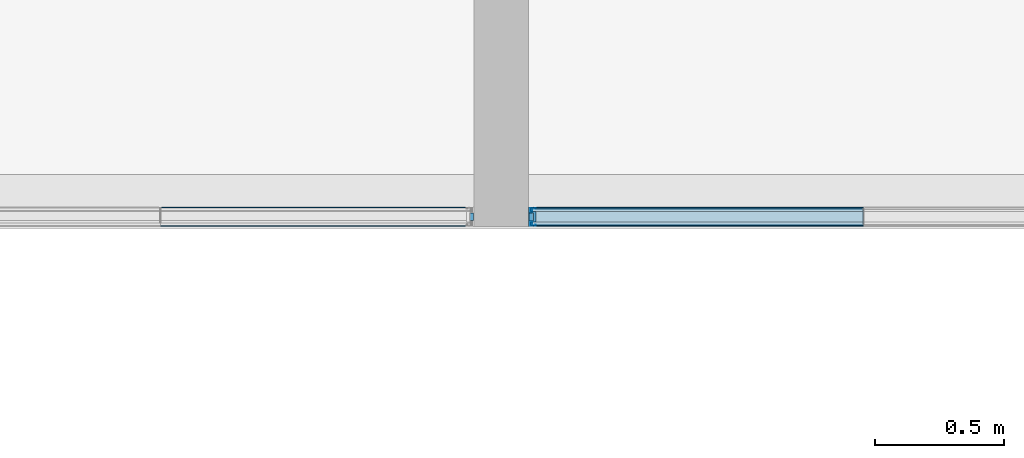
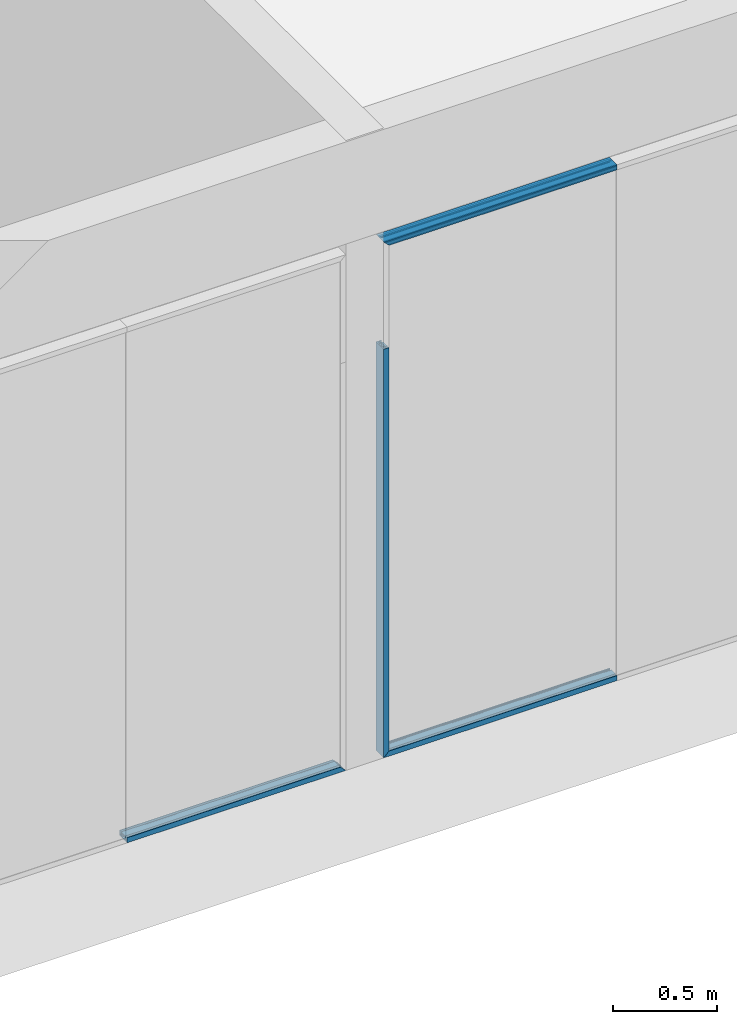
# One storey, part 44 of 387: 7 building element parts, 6 elements without a shape of their own.
"""IFC2X3 building model written with IfcOpenShell, lengths in millimetres."""

from ifc_helpers import new_model, entity, si_unit, converted_unit, derived_unit, money_unit, direction, frame, origin_with_axes, place, context, subcontext, project, spatial, faceted_brep, source, transform, mapped, material, type_object, element, aggregate, save


model = new_model("IFC2X3")

# Units and contexts
model_context = context("Model", 3, precision=0.01, world=origin_with_axes(), true_north=direction((0.0, 1.0)))
body_context = subcontext(model_context, "Body", "Model", "MODEL_VIEW")
ifc_project = project(units=[si_unit("LENGTHUNIT", "METRE", prefix="MILLI"), si_unit("AREAUNIT", "SQUARE_METRE"), si_unit("VOLUMEUNIT", "CUBIC_METRE"), converted_unit("PLANEANGLEUNIT", "DEGREE", entity("IfcPlaneAngleMeasure", 0.0174532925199), si_unit("PLANEANGLEUNIT", "RADIAN"), dimensions=[0, 0, 0, 0, 0, 0, 0]), si_unit("SOLIDANGLEUNIT", "STERADIAN"), money_unit("EUR"), converted_unit("TIMEUNIT", "Year", entity("IfcTimeMeasure", 31556926.0), si_unit("TIMEUNIT", "SECOND"), dimensions=[0, 0, 1, 0, 0, 0, 0]), si_unit("MASSUNIT", "GRAM", prefix="KILO"), si_unit("THERMODYNAMICTEMPERATUREUNIT", "DEGREE_CELSIUS"), si_unit("LUMINOUSINTENSITYUNIT", "LUMEN"), si_unit("ENERGYUNIT", "JOULE", prefix="MEGA"), derived_unit("THERMALCONDUCTANCEUNIT", [(si_unit("POWERUNIT", "WATT"), 1), (si_unit("LENGTHUNIT", "METRE"), -1), (si_unit("THERMODYNAMICTEMPERATUREUNIT", "KELVIN"), -1)]), derived_unit("SPECIFICHEATCAPACITYUNIT", [(si_unit("ENERGYUNIT", "JOULE"), 1), (si_unit("MASSUNIT", "GRAM", prefix="KILO"), -1), (si_unit("THERMODYNAMICTEMPERATUREUNIT", "KELVIN"), -1)]), derived_unit("MASSDENSITYUNIT", [(si_unit("MASSUNIT", "GRAM", prefix="KILO"), 1), (si_unit("VOLUMEUNIT", "CUBIC_METRE"), -1)])], contexts=[model_context])

# Site, building, storey
site_placement = place(None, origin_with_axes())
site = spatial("IfcSite", under=ifc_project, at=site_placement, Name="Puškini 31, Narva", CompositionType="ELEMENT")
building_placement = place(site_placement, origin_with_axes())
building = spatial("IfcBuilding", under=site, at=building_placement, Name="Narva Riigigümnaasium", CompositionType="ELEMENT")
storey_placement = place(building_placement, frame((0.0, 0.0, 2640.0), z_axis=(0.0, 0.0, 1.0), x_axis=(1.0, 0.0, 0.0)))
storey = spatial("IfcBuildingStorey", under=building, at=storey_placement, Name="2.korrus +2.64", CompositionType="ELEMENT", Elevation=2640.0)

# Curtain wall, member, building element parts
curtain_wall_type = type_object("IfcCurtainWallType", Name="Curtain Wall Type", PredefinedType="NOTDEFINED")
curtain_wall_1_placement = place(storey_placement, frame((44841.2500007, 163537.000002, -0.000124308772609), z_axis=(0.0, 0.0, 1.0), x_axis=(1.0, 0.0, 0.0)))
curtain_wall_1 = element("IfcCurtainWall", 1, at=curtain_wall_1_placement, inside=storey, type_object=curtain_wall_type, Name="G-SKLF-49")
member_type_1 = type_object("IfcMemberType", Name="Boundary Frame 30 x 37", PredefinedType="MULLION")
member_1_placement = place(curtain_wall_1_placement, frame((-4541.25000268, 0.0, 0.0), z_axis=(0.0, 0.0, 1.0), x_axis=(-1.0, 0.0, 0.0)))
member_1 = element("IfcMember", 2, at=member_1_placement, type_object=member_type_1, Name="G-SKLF-72-raam", ObjectType="MULLION")
ifc_material_1 = material(Name="Klaasvill")
shared_shape_1 = source(origin_with_axes(), body_context, "Body", "Brep", [
    faceted_brep([(13.8499999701, 20.000000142, 13.8500005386), (13.8499999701, 20.000000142, 2400.00003102), (7.49999990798, 20.000000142, 2400.00003102), (7.49999990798, 20.000000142, 7.5000002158), (13.8499999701, 34.0161444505, 13.8500005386), (13.8499999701, 34.0161444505, 2400.00003102), (7.49999990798, 34.0161444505, 2400.00003102), (7.49999990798, 34.0161444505, 7.5000002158)], [[[0, 1, 2, 3]], [[4, 5, 1, 0]], [[2, 1, 5, 6]], [[3, 2, 6, 7]], [[3, 7, 4, 0]], [[7, 6, 5, 4]]]),
    faceted_brep([(25.004489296, 32.0307503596, 25.0044903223), (25.004489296, 32.0307503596, 2400.00003102), (24.987414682, 34.0161444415, 2400.00003102), (24.987414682, 34.0161444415, 24.9874157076), (25.742237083, 31.2930025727, 25.7422381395), (25.742237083, 31.2930025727, 2400.00003102), (26.7500193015, 31.0229681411, 2400.00003102), (27.75780152, 31.2930025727, 2400.00003102), (28.4955493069, 32.0307503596, 2400.00003102), (28.7655837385, 33.0385325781, 2400.00003102), (28.5126239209, 34.0161444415, 2400.00003102), (28.5126239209, 34.0161444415, 28.5126250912), (28.7655837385, 33.0385325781, 28.7655849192), (28.4955493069, 32.0307503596, 28.4955504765), (27.75780152, 31.2930025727, 27.7578026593), (26.7500193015, 31.0229681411, 26.7500203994)], [[[0, 1, 2, 3]], [[4, 5, 1, 0]], [[2, 1, 5, 6, 7, 8, 9, 10]], [[3, 2, 10, 11]], [[3, 11, 12, 13, 14, 15, 4, 0]], [[15, 6, 5, 4]], [[14, 7, 6, 15]], [[13, 8, 7, 14]], [[12, 9, 8, 13]], [[11, 10, 9, 12]]]),
    faceted_brep([(7.49999990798, -34.0161445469, 7.5000002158), (7.49999990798, -34.0161445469, 2400.00003102), (7.49999990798, -19.9999997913, 2400.00003102), (7.49999990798, -19.9999997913, 7.5000002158), (13.8499999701, -34.0161445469, 13.8500005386), (13.8499999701, -34.0161445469, 2400.00003102), (13.8499999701, -19.9999997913, 2400.00003102), (13.8499999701, -19.9999997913, 13.8500005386)], [[[0, 1, 2, 3]], [[4, 5, 1, 0]], [[2, 1, 5, 6]], [[3, 2, 6, 7]], [[3, 7, 4, 0]], [[7, 6, 5, 4]]]),
    faceted_brep([(24.987414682, -34.0161444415, 24.9874157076), (24.987414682, -34.0161444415, 2400.00003102), (25.004489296, -32.0307503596, 2400.00003102), (25.004489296, -32.0307503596, 25.0044903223), (28.5126239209, -34.0161444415, 28.5126250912), (28.5126239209, -34.0161444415, 2400.00003102), (28.7655837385, -33.0385325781, 2400.00003102), (28.4955493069, -32.0307503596, 2400.00003102), (27.75780152, -31.2930025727, 2400.00003102), (26.7500193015, -31.0229681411, 2400.00003102), (25.742237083, -31.2930025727, 2400.00003102), (25.742237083, -31.2930025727, 25.7422381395), (26.7500193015, -31.0229681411, 26.7500203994), (27.75780152, -31.2930025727, 27.7578026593), (28.4955493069, -32.0307503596, 28.4955504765), (28.7655837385, -33.0385325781, 28.7655849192)], [[[0, 1, 2, 3]], [[4, 5, 1, 0]], [[2, 1, 5, 6, 7, 8, 9, 10]], [[3, 2, 10, 11]], [[3, 11, 12, 13, 14, 15, 4, 0]], [[15, 6, 5, 4]], [[14, 7, 6, 15]], [[13, 8, 7, 14]], [[12, 9, 8, 13]], [[11, 10, 9, 12]]]),
])
building_element_part_1_placement = place(member_1_placement, origin_with_axes())
building_element_part_1 = element("IfcBuildingElementPart", 3, at=building_element_part_1_placement, material=ifc_material_1, Name="Klaasvill", context=body_context, shape_type="MappedRepresentation", body=[
    mapped(shared_shape_1, transform((0.0, 0.0, 0.0), x_axis=(-1.0, 0.0, 0.0), y_axis=(0.0, -1.0, 0.0), z_axis=(0.0, 0.0, 1.0))),
])
ifc_material_2 = material(Name="Teras RAL7012")
shared_shape_2 = source(origin_with_axes(), body_context, "Body", "Brep", [
    faceted_brep([(29.5999996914, -17.0000000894, 29.6000009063), (29.5999996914, -17.0000000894, 2400.00003102), (0.0, -17.0000000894, 2400.00003102), (0.0, -17.0000000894, 0.0), (29.5999996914, 17.0000000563, 29.6000009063), (29.5999996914, 17.0000000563, 2400.00003102), (0.0, 17.0000000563, 2400.00003102), (1.9999999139, 15.0000001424, 2400.00003102), (18.7999996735, 15.0000001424, 2400.00003102), (18.7999996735, -15.0000001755, 2400.00003102), (1.9999999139, -15.0000001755, 2400.00003102), (0.0, 17.0000000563, 0.0), (1.9999999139, 15.0000001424, 1.99999999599), (1.9999999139, -15.0000001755, 1.99999999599), (18.7999996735, -15.0000001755, 18.8000004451), (18.7999996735, 15.0000001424, 18.8000004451)], [[[0, 1, 2, 3]], [[4, 5, 1, 0]], [[2, 1, 5, 6], [7, 8, 9, 10]], [[3, 2, 6, 11]], [[3, 11, 4, 0], [12, 13, 14, 15]], [[11, 6, 5, 4]], [[15, 8, 7, 12]], [[14, 9, 8, 15]], [[13, 10, 9, 14]], [[12, 7, 10, 13]]]),
    faceted_brep([(29.5999996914, 17.0000000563, 29.6000009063), (29.5999996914, 17.0000000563, 2400.00003102), (0.0, 17.0, 2400.00003102), (0.0, 17.0, 0.0), (30.0000193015, 17.0, 30.0000205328), (30.0000193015, 17.0, 2400.00003102), (30.0000193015, 20.0, 2400.00003102), (13.8499999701, 20.000000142, 2400.00003102), (7.49999999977, 20.0, 2400.00003102), (7.49999999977, 34.0161444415, 2400.00003102), (13.8499999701, 34.0161444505, 2400.00003102), (24.987414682, 34.0161444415, 2400.00003102), (28.5126239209, 34.0161444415, 2400.00003102), (30.0000193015, 34.0161444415, 2400.00003102), (30.0000193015, 37.0, 2400.00003102), (0.0, 37.0, 2400.00003102), (0.0, 37.0, 0.0), (30.0000193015, 37.0, 30.0000205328), (30.0000193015, 34.0161444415, 30.0000205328), (28.5126239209, 34.0161444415, 28.5126250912), (24.987414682, 34.0161444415, 24.9874157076), (13.8499999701, 34.0161444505, 13.8500005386), (7.49999999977, 34.0161444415, 7.50000030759), (7.49999999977, 20.0, 7.50000030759), (13.8499999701, 20.000000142, 13.8500005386), (30.0000193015, 20.0, 30.0000205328)], [[[0, 1, 2, 3]], [[4, 5, 1, 0]], [[2, 1, 5, 6, 7, 8, 9, 10, 11, 12, 13, 14, 15]], [[3, 2, 15, 16]], [[3, 16, 17, 18, 19, 20, 21, 22, 23, 24, 25, 4, 0]], [[25, 6, 5, 4]], [[24, 7, 6, 25]], [[23, 8, 7, 24]], [[22, 9, 8, 23]], [[21, 10, 9, 22]], [[20, 11, 10, 21]], [[19, 12, 11, 20]], [[18, 13, 12, 19]], [[17, 14, 13, 18]], [[16, 15, 14, 17]]]),
    faceted_brep([(0.0, -37.0, 0.0), (0.0, -37.0, 2400.00003102), (0.0, -17.0, 2400.00003102), (0.0, -17.0, 0.0), (30.0000193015, -37.0, 30.0000205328), (30.0000193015, -37.0, 2400.00003102), (30.0000193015, -34.0161444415, 2400.00003102), (28.5126239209, -34.0161444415, 2400.00003102), (24.987414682, -34.0161444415, 2400.00003102), (13.8499999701, -34.0161445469, 2400.00003102), (7.49999999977, -34.0161444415, 2400.00003102), (7.49999999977, -20.0, 2400.00003102), (13.8499999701, -19.9999997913, 2400.00003102), (30.0000193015, -20.0, 2400.00003102), (30.0000193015, -17.0, 2400.00003102), (29.5999996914, -17.0000000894, 2400.00003102), (29.5999996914, -17.0000000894, 29.6000009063), (30.0000193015, -17.0, 30.0000205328), (30.0000193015, -20.0, 30.0000205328), (13.8499999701, -19.9999997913, 13.8500005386), (7.49999999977, -20.0, 7.50000030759), (7.49999999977, -34.0161444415, 7.50000030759), (13.8499999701, -34.0161445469, 13.8500005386), (24.987414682, -34.0161444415, 24.9874157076), (28.5126239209, -34.0161444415, 28.5126250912), (30.0000193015, -34.0161444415, 30.0000205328)], [[[0, 1, 2, 3]], [[4, 5, 1, 0]], [[2, 1, 5, 6, 7, 8, 9, 10, 11, 12, 13, 14, 15]], [[3, 2, 15, 16]], [[3, 16, 17, 18, 19, 20, 21, 22, 23, 24, 25, 4, 0]], [[25, 6, 5, 4]], [[24, 7, 6, 25]], [[23, 8, 7, 24]], [[22, 9, 8, 23]], [[21, 10, 9, 22]], [[20, 11, 10, 21]], [[19, 12, 11, 20]], [[18, 13, 12, 19]], [[17, 14, 13, 18]], [[16, 15, 14, 17]]]),
])
building_element_part_2_placement = place(member_1_placement, origin_with_axes())
building_element_part_2 = element("IfcBuildingElementPart", 4, at=building_element_part_2_placement, material=ifc_material_2, Name="Teras RAL7012", context=body_context, shape_type="MappedRepresentation", body=[
    mapped(shared_shape_2, transform((0.0, 0.0, 0.0), x_axis=(-1.0, 0.0, 0.0), y_axis=(0.0, -1.0, 0.0), z_axis=(0.0, 0.0, 1.0))),
])
aggregate(member_1, [building_element_part_1, building_element_part_2])

# Curtain wall, member, building element part
curtain_wall_2_placement = place(storey_placement, frame((37052.5000014, 163542.000002, -0.000124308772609), z_axis=(0.0, 0.0, 1.0), x_axis=(1.0, 0.0, 0.0)))
curtain_wall_2 = element("IfcCurtainWall", 5, at=curtain_wall_2_placement, inside=storey, type_object=curtain_wall_type, Name="G-SKLF-48")
member_type_2 = type_object("IfcMemberType", Name="Boundary Frame 30 x 42", PredefinedType="MULLION")
member_2_placement = place(curtain_wall_2_placement, frame((1822.5, 0.0, 0.0), z_axis=(1.0, 0.0, 0.0), x_axis=(0.0, 0.0, 1.0)))
member_2 = element("IfcMember", 6, at=member_2_placement, type_object=member_type_2, Name="G-SKLF-69-raam", ObjectType="MULLION")
aggregate(curtain_wall_2, [member_2])
shared_shape_3 = source(origin_with_axes(), body_context, "Body", "Brep", [
    faceted_brep([(0.0, -22.0000000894, -2.079791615e-07), (0.0, -22.0000000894, 1215.0), (-29.5999996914, -22.0000000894, 1185.40000031), (-29.5999996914, -22.0000000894, -2.079791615e-07), (0.0, 12.0000000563, -2.079791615e-07), (0.0, 12.0000000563, 1215.0), (-29.5999996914, 12.0000000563, 1185.40000031), (-1.9999999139, 10.0000001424, 1213.00000009), (-1.9999999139, -20.0000001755, 1213.00000009), (-18.7999996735, -20.0000001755, 1196.20000033), (-18.7999996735, 10.0000001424, 1196.20000033), (-29.5999996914, 12.0000000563, -2.079791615e-07), (-1.9999999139, 10.0000001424, -2.079791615e-07), (-18.7999996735, 10.0000001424, -2.079791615e-07), (-18.7999996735, -20.0000001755, -2.079791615e-07), (-1.9999999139, -20.0000001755, -2.079791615e-07)], [[[0, 1, 2, 3]], [[4, 5, 1, 0]], [[1, 5, 6, 2], [7, 8, 9, 10]], [[3, 2, 6, 11]], [[0, 3, 11, 4], [12, 13, 14, 15]], [[11, 6, 5, 4]], [[15, 8, 7, 12]], [[14, 9, 8, 15]], [[13, 10, 9, 14]], [[12, 7, 10, 13]]]),
    faceted_brep([(0.0, 12.0, -2.079791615e-07), (0.0, 12.0, 1215.0), (-29.5999996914, 12.0000000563, 1185.40000031), (-29.5999996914, 12.0000000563, -2.079791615e-07), (0.0, 32.0, -2.079791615e-07), (0.0, 32.0, 1215.0), (-30.0000193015, 32.0, 1184.9999807), (-30.0000193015, 29.0161444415, 1184.9999807), (-28.5126239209, 29.0161444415, 1186.48737608), (-24.987414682, 29.0161444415, 1190.01258532), (-13.8499999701, 29.0161444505, 1201.15000003), (-7.49999999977, 29.0161444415, 1207.5), (-7.49999999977, 15.0, 1207.5), (-13.8499999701, 15.000000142, 1201.15000003), (-30.0000193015, 15.0, 1184.9999807), (-30.0000193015, 12.0, 1184.9999807), (-30.0000193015, 12.0, -2.079791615e-07), (-30.0000193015, 15.0, -2.079791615e-07), (-13.8499999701, 15.000000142, -2.079791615e-07), (-7.49999999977, 15.0, -2.079791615e-07), (-7.49999999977, 29.0161444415, -2.079791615e-07), (-13.8499999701, 29.0161444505, -2.079791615e-07), (-24.987414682, 29.0161444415, -2.079791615e-07), (-28.5126239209, 29.0161444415, -2.079791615e-07), (-30.0000193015, 29.0161444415, -2.079791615e-07), (-30.0000193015, 32.0, -2.079791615e-07)], [[[0, 1, 2, 3]], [[4, 5, 1, 0]], [[1, 5, 6, 7, 8, 9, 10, 11, 12, 13, 14, 15, 2]], [[3, 2, 15, 16]], [[0, 3, 16, 17, 18, 19, 20, 21, 22, 23, 24, 25, 4]], [[25, 6, 5, 4]], [[24, 7, 6, 25]], [[23, 8, 7, 24]], [[22, 9, 8, 23]], [[21, 10, 9, 22]], [[20, 11, 10, 21]], [[19, 12, 11, 20]], [[18, 13, 12, 19]], [[17, 14, 13, 18]], [[16, 15, 14, 17]]]),
    faceted_brep([(0.0, -22.0, -2.079791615e-07), (0.0, -22.0, 1215.0), (0.0, -42.0, 1215.0), (0.0, -42.0, -2.079791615e-07), (-29.5999996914, -22.0000000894, -2.079791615e-07), (-29.5999996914, -22.0000000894, 1185.40000031), (-30.0000193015, -22.0, 1184.9999807), (-30.0000193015, -25.0, 1184.9999807), (-13.8499999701, -24.9999997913, 1201.15000003), (-7.49999999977, -25.0, 1207.5), (-7.49999999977, -39.0161444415, 1207.5), (-13.8499999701, -39.0161445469, 1201.15000003), (-24.987414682, -39.0161444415, 1190.01258532), (-28.5126239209, -39.0161444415, 1186.48737608), (-30.0000193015, -39.0161444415, 1184.9999807), (-30.0000193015, -42.0, 1184.9999807), (-30.0000193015, -42.0, -2.079791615e-07), (-30.0000193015, -39.0161444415, -2.079791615e-07), (-28.5126239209, -39.0161444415, -2.079791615e-07), (-24.987414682, -39.0161444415, -2.079791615e-07), (-13.8499999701, -39.0161445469, -2.079791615e-07), (-7.49999999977, -39.0161444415, -2.079791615e-07), (-7.49999999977, -25.0, -2.079791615e-07), (-13.8499999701, -24.9999997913, -2.079791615e-07), (-30.0000193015, -25.0, -2.079791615e-07), (-30.0000193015, -22.0, -2.079791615e-07)], [[[0, 1, 2, 3]], [[4, 5, 1, 0]], [[1, 5, 6, 7, 8, 9, 10, 11, 12, 13, 14, 15, 2]], [[3, 2, 15, 16]], [[0, 3, 16, 17, 18, 19, 20, 21, 22, 23, 24, 25, 4]], [[25, 6, 5, 4]], [[24, 7, 6, 25]], [[23, 8, 7, 24]], [[22, 9, 8, 23]], [[21, 10, 9, 22]], [[20, 11, 10, 21]], [[19, 12, 11, 20]], [[18, 13, 12, 19]], [[17, 14, 13, 18]], [[16, 15, 14, 17]]]),
])
building_element_part_3_placement = place(member_2_placement, origin_with_axes())
building_element_part_3 = element("IfcBuildingElementPart", 7, at=building_element_part_3_placement, material=ifc_material_2, Name="Teras RAL7012", context=body_context, shape_type="MappedRepresentation", body=[
    mapped(shared_shape_3, transform((0.0, 0.0, 0.0), x_axis=(-1.0, 0.0, 0.0), y_axis=(0.0, -1.0, 0.0), z_axis=(0.0, 0.0, 1.0))),
])
aggregate(member_2, [building_element_part_3])

# Member, building element parts
member_3_placement = place(curtain_wall_1_placement, frame((-3243.75000268, 0.0, 3030.00000658), z_axis=(-1.0, 0.0, 0.0), x_axis=(0.0, 0.0, -1.0)))
member_3 = element("IfcMember", 8, at=member_3_placement, type_object=member_type_1, Name="G-SKLF-70-raam", ObjectType="MULLION")
shared_shape_4 = source(origin_with_axes(), body_context, "Body", "Brep", [
    faceted_brep([(-7.49999990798, 20.000000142, 0.0), (-7.49999990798, 20.000000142, 1290.00000009), (-13.8499999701, 20.000000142, 1283.65000003), (-13.8499999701, 20.000000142, 0.0), (-7.49999990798, 34.0161444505, 0.0), (-7.49999990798, 34.0161444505, 1290.00000009), (-13.8499999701, 34.0161444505, 1283.65000003), (-13.8499999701, 34.0161444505, 0.0)], [[[0, 1, 2, 3]], [[4, 5, 1, 0]], [[1, 5, 6, 2]], [[3, 2, 6, 7]], [[0, 3, 7, 4]], [[7, 6, 5, 4]]]),
    faceted_brep([(-24.987414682, 34.0161444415, 0.0), (-24.987414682, 34.0161444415, 1272.51258532), (-25.004489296, 32.0307503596, 1272.4955107), (-25.004489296, 32.0307503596, 0.0), (-28.5126239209, 34.0161444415, 0.0), (-28.5126239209, 34.0161444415, 1268.98737608), (-28.7655837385, 33.0385325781, 1268.73441626), (-28.4955493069, 32.0307503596, 1269.00445069), (-27.75780152, 31.2930025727, 1269.74219848), (-26.7500193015, 31.0229681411, 1270.7499807), (-25.742237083, 31.2930025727, 1271.75776292), (-25.742237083, 31.2930025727, 0.0), (-26.7500193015, 31.0229681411, 0.0), (-27.75780152, 31.2930025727, 0.0), (-28.4955493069, 32.0307503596, 0.0), (-28.7655837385, 33.0385325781, 0.0)], [[[0, 1, 2, 3]], [[4, 5, 1, 0]], [[1, 5, 6, 7, 8, 9, 10, 2]], [[3, 2, 10, 11]], [[0, 3, 11, 12, 13, 14, 15, 4]], [[15, 6, 5, 4]], [[14, 7, 6, 15]], [[13, 8, 7, 14]], [[12, 9, 8, 13]], [[11, 10, 9, 12]]]),
    faceted_brep([(-7.49999990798, -19.9999997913, 0.0), (-7.49999990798, -19.9999997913, 1290.00000009), (-7.49999990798, -34.0161445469, 1290.00000009), (-7.49999990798, -34.0161445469, 0.0), (-13.8499999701, -19.9999997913, 0.0), (-13.8499999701, -19.9999997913, 1283.65000003), (-13.8499999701, -34.0161445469, 1283.65000003), (-13.8499999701, -34.0161445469, 0.0)], [[[0, 1, 2, 3]], [[4, 5, 1, 0]], [[1, 5, 6, 2]], [[3, 2, 6, 7]], [[0, 3, 7, 4]], [[7, 6, 5, 4]]]),
    faceted_brep([(-25.004489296, -32.0307503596, 0.0), (-25.004489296, -32.0307503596, 1272.4955107), (-24.987414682, -34.0161444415, 1272.51258532), (-24.987414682, -34.0161444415, 0.0), (-25.742237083, -31.2930025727, 0.0), (-25.742237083, -31.2930025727, 1271.75776292), (-26.7500193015, -31.0229681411, 1270.7499807), (-27.75780152, -31.2930025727, 1269.74219848), (-28.4955493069, -32.0307503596, 1269.00445069), (-28.7655837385, -33.0385325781, 1268.73441626), (-28.5126239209, -34.0161444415, 1268.98737608), (-28.5126239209, -34.0161444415, 0.0), (-28.7655837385, -33.0385325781, 0.0), (-28.4955493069, -32.0307503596, 0.0), (-27.75780152, -31.2930025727, 0.0), (-26.7500193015, -31.0229681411, 0.0)], [[[0, 1, 2, 3]], [[4, 5, 1, 0]], [[1, 5, 6, 7, 8, 9, 10, 2]], [[3, 2, 10, 11]], [[0, 3, 11, 12, 13, 14, 15, 4]], [[15, 6, 5, 4]], [[14, 7, 6, 15]], [[13, 8, 7, 14]], [[12, 9, 8, 13]], [[11, 10, 9, 12]]]),
])
building_element_part_4_placement = place(member_3_placement, origin_with_axes())
building_element_part_4 = element("IfcBuildingElementPart", 9, at=building_element_part_4_placement, material=ifc_material_1, Name="Klaasvill", context=body_context, shape_type="MappedRepresentation", body=[
    mapped(shared_shape_4, transform((0.0, 0.0, 0.0), x_axis=(-1.0, 0.0, 0.0), y_axis=(0.0, -1.0, 0.0), z_axis=(0.0, 0.0, 1.0))),
])
shared_shape_5 = source(origin_with_axes(), body_context, "Body", "Brep", [
    faceted_brep([(0.0, -17.0000000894, 0.0), (0.0, -17.0000000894, 1297.5), (-29.5999996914, -17.0000000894, 1267.90000031), (-29.5999996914, -17.0000000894, 0.0), (0.0, 17.0000000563, 0.0), (0.0, 17.0000000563, 1297.5), (-29.5999996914, 17.0000000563, 1267.90000031), (-1.9999999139, 15.0000001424, 1295.50000009), (-1.9999999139, -15.0000001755, 1295.50000009), (-18.7999996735, -15.0000001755, 1278.70000033), (-18.7999996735, 15.0000001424, 1278.70000033), (-29.5999996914, 17.0000000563, 0.0), (-1.9999999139, 15.0000001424, 0.0), (-18.7999996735, 15.0000001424, 0.0), (-18.7999996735, -15.0000001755, 0.0), (-1.9999999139, -15.0000001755, 0.0)], [[[0, 1, 2, 3]], [[4, 5, 1, 0]], [[1, 5, 6, 2], [7, 8, 9, 10]], [[3, 2, 6, 11]], [[0, 3, 11, 4], [12, 13, 14, 15]], [[11, 6, 5, 4]], [[15, 8, 7, 12]], [[14, 9, 8, 15]], [[13, 10, 9, 14]], [[12, 7, 10, 13]]]),
    faceted_brep([(0.0, 17.0, 0.0), (0.0, 17.0, 1297.5), (-29.5999996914, 17.0000000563, 1267.90000031), (-29.5999996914, 17.0000000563, 0.0), (0.0, 37.0, 0.0), (0.0, 37.0, 1297.5), (-30.0000193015, 37.0, 1267.4999807), (-30.0000193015, 34.0161444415, 1267.4999807), (-28.5126239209, 34.0161444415, 1268.98737608), (-24.987414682, 34.0161444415, 1272.51258532), (-13.8499999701, 34.0161444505, 1283.65000003), (-7.49999999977, 34.0161444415, 1290.0), (-7.49999999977, 20.0, 1290.0), (-13.8499999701, 20.000000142, 1283.65000003), (-30.0000193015, 20.0, 1267.4999807), (-30.0000193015, 17.0, 1267.4999807), (-30.0000193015, 17.0, 0.0), (-30.0000193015, 20.0, 0.0), (-13.8499999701, 20.000000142, 0.0), (-7.49999999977, 20.0, 0.0), (-7.49999999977, 34.0161444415, 0.0), (-13.8499999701, 34.0161444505, 0.0), (-24.987414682, 34.0161444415, 0.0), (-28.5126239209, 34.0161444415, 0.0), (-30.0000193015, 34.0161444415, 0.0), (-30.0000193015, 37.0, 0.0)], [[[0, 1, 2, 3]], [[4, 5, 1, 0]], [[1, 5, 6, 7, 8, 9, 10, 11, 12, 13, 14, 15, 2]], [[3, 2, 15, 16]], [[0, 3, 16, 17, 18, 19, 20, 21, 22, 23, 24, 25, 4]], [[25, 6, 5, 4]], [[24, 7, 6, 25]], [[23, 8, 7, 24]], [[22, 9, 8, 23]], [[21, 10, 9, 22]], [[20, 11, 10, 21]], [[19, 12, 11, 20]], [[18, 13, 12, 19]], [[17, 14, 13, 18]], [[16, 15, 14, 17]]]),
    faceted_brep([(0.0, -17.0, 0.0), (0.0, -17.0, 1297.5), (0.0, -37.0, 1297.5), (0.0, -37.0, 0.0), (-29.5999996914, -17.0000000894, 0.0), (-29.5999996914, -17.0000000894, 1267.90000031), (-30.0000193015, -17.0, 1267.4999807), (-30.0000193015, -20.0, 1267.4999807), (-13.8499999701, -19.9999997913, 1283.65000003), (-7.49999999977, -20.0, 1290.0), (-7.49999999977, -34.0161444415, 1290.0), (-13.8499999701, -34.0161445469, 1283.65000003), (-24.987414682, -34.0161444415, 1272.51258532), (-28.5126239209, -34.0161444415, 1268.98737608), (-30.0000193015, -34.0161444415, 1267.4999807), (-30.0000193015, -37.0, 1267.4999807), (-30.0000193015, -37.0, 0.0), (-30.0000193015, -34.0161444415, 0.0), (-28.5126239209, -34.0161444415, 0.0), (-24.987414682, -34.0161444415, 0.0), (-13.8499999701, -34.0161445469, 0.0), (-7.49999999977, -34.0161444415, 0.0), (-7.49999999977, -20.0, 0.0), (-13.8499999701, -19.9999997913, 0.0), (-30.0000193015, -20.0, 0.0), (-30.0000193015, -17.0, 0.0)], [[[0, 1, 2, 3]], [[4, 5, 1, 0]], [[1, 5, 6, 7, 8, 9, 10, 11, 12, 13, 14, 15, 2]], [[3, 2, 15, 16]], [[0, 3, 16, 17, 18, 19, 20, 21, 22, 23, 24, 25, 4]], [[25, 6, 5, 4]], [[24, 7, 6, 25]], [[23, 8, 7, 24]], [[22, 9, 8, 23]], [[21, 10, 9, 22]], [[20, 11, 10, 21]], [[19, 12, 11, 20]], [[18, 13, 12, 19]], [[17, 14, 13, 18]], [[16, 15, 14, 17]]]),
])
building_element_part_5_placement = place(member_3_placement, origin_with_axes())
building_element_part_5 = element("IfcBuildingElementPart", 10, at=building_element_part_5_placement, material=ifc_material_2, Name="Teras RAL7012", context=body_context, shape_type="MappedRepresentation", body=[
    mapped(shared_shape_5, transform((0.0, 0.0, 0.0), x_axis=(-1.0, 0.0, 0.0), y_axis=(0.0, -1.0, 0.0), z_axis=(0.0, 0.0, 1.0))),
])
aggregate(member_3, [building_element_part_4, building_element_part_5])

# Member
member_4_placement = place(curtain_wall_1_placement, frame((-4541.25000268, 0.0, 0.0), z_axis=(1.0, 0.0, 0.0), x_axis=(0.0, 0.0, 1.0)))
member_4 = element("IfcMember", 11, at=member_4_placement, type_object=member_type_1, Name="G-SKLF-61-raam", ObjectType="MULLION")

aggregate(curtain_wall_1, [member_3, member_4, member_1])

# Building element part
shared_shape_6 = source(origin_with_axes(), body_context, "Body", "Brep", [
    faceted_brep([(-13.8499999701, 20.000000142, 13.8499999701), (-7.49999990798, 20.000000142, 7.49999990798), (-7.49999990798, 20.000000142, 1297.50000535), (-13.8499999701, 20.000000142, 1297.50000535), (-13.8499999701, 34.0161444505, 13.8499999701), (-7.49999990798, 34.0161444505, 7.49999990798), (-7.49999990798, 34.0161444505, 1297.50000535), (-13.8499999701, 34.0161444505, 1297.50000535)], [[[0, 1, 2, 3]], [[1, 0, 4, 5]], [[1, 5, 6, 2]], [[2, 6, 7, 3]], [[4, 0, 3, 7]], [[5, 4, 7, 6]]]),
    faceted_brep([(-25.004489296, 32.0307503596, 25.004489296), (-24.987414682, 34.0161444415, 24.987414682), (-24.987414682, 34.0161444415, 1297.50000535), (-25.004489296, 32.0307503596, 1297.50000535), (-25.742237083, 31.2930025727, 25.742237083), (-26.7500193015, 31.0229681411, 26.7500193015), (-27.75780152, 31.2930025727, 27.75780152), (-28.4955493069, 32.0307503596, 28.4955493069), (-28.7655837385, 33.0385325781, 28.7655837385), (-28.5126239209, 34.0161444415, 28.5126239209), (-28.5126239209, 34.0161444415, 1297.50000535), (-28.7655837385, 33.0385325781, 1297.50000535), (-28.4955493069, 32.0307503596, 1297.50000535), (-27.75780152, 31.2930025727, 1297.50000535), (-26.7500193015, 31.0229681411, 1297.50000535), (-25.742237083, 31.2930025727, 1297.50000535)], [[[0, 1, 2, 3]], [[1, 0, 4, 5, 6, 7, 8, 9]], [[1, 9, 10, 2]], [[2, 10, 11, 12, 13, 14, 15, 3]], [[4, 0, 3, 15]], [[5, 4, 15, 14]], [[6, 5, 14, 13]], [[7, 6, 13, 12]], [[8, 7, 12, 11]], [[9, 8, 11, 10]]]),
    faceted_brep([(-7.49999990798, -34.0161445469, 7.49999990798), (-7.49999990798, -19.9999997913, 7.49999990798), (-7.49999990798, -19.9999997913, 1297.50000535), (-7.49999990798, -34.0161445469, 1297.50000535), (-13.8499999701, -34.0161445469, 13.8499999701), (-13.8499999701, -19.9999997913, 13.8499999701), (-13.8499999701, -19.9999997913, 1297.50000535), (-13.8499999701, -34.0161445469, 1297.50000535)], [[[0, 1, 2, 3]], [[1, 0, 4, 5]], [[1, 5, 6, 2]], [[2, 6, 7, 3]], [[4, 0, 3, 7]], [[5, 4, 7, 6]]]),
    faceted_brep([(-24.987414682, -34.0161444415, 24.987414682), (-25.004489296, -32.0307503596, 25.004489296), (-25.004489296, -32.0307503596, 1297.50000535), (-24.987414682, -34.0161444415, 1297.50000535), (-28.5126239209, -34.0161444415, 28.5126239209), (-28.7655837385, -33.0385325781, 28.7655837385), (-28.4955493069, -32.0307503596, 28.4955493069), (-27.75780152, -31.2930025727, 27.75780152), (-26.7500193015, -31.0229681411, 26.7500193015), (-25.742237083, -31.2930025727, 25.742237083), (-25.742237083, -31.2930025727, 1297.50000535), (-26.7500193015, -31.0229681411, 1297.50000535), (-27.75780152, -31.2930025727, 1297.50000535), (-28.4955493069, -32.0307503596, 1297.50000535), (-28.7655837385, -33.0385325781, 1297.50000535), (-28.5126239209, -34.0161444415, 1297.50000535)], [[[0, 1, 2, 3]], [[1, 0, 4, 5, 6, 7, 8, 9]], [[1, 9, 10, 2]], [[2, 10, 11, 12, 13, 14, 15, 3]], [[4, 0, 3, 15]], [[5, 4, 15, 14]], [[6, 5, 14, 13]], [[7, 6, 13, 12]], [[8, 7, 12, 11]], [[9, 8, 11, 10]]]),
])
building_element_part_6_placement = place(member_4_placement, origin_with_axes())
building_element_part_6 = element("IfcBuildingElementPart", 12, at=building_element_part_6_placement, material=ifc_material_1, Name="Klaasvill", context=body_context, shape_type="MappedRepresentation", body=[
    mapped(shared_shape_6, transform((0.0, 0.0, 0.0), x_axis=(-1.0, 0.0, 0.0), y_axis=(0.0, -1.0, 0.0), z_axis=(0.0, 0.0, 1.0))),
])

shared_shape_7 = source(origin_with_axes(), body_context, "Body", "Brep", [
    faceted_brep([(-29.5999996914, -17.0000000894, 29.5999996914), (0.0, -17.0000000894, 0.0), (0.0, -17.0000000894, 1297.50000535), (-29.5999996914, -17.0000000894, 1297.50000535), (-29.5999996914, 17.0000000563, 29.5999996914), (0.0, 17.0000000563, 0.0), (-1.9999999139, 15.0000001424, 1.9999999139), (-18.7999996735, 15.0000001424, 18.7999996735), (-18.7999996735, -15.0000001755, 18.7999996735), (-1.9999999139, -15.0000001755, 1.9999999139), (0.0, 17.0000000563, 1297.50000535), (-29.5999996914, 17.0000000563, 1297.50000535), (-1.9999999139, 15.0000001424, 1297.50000535), (-1.9999999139, -15.0000001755, 1297.50000535), (-18.7999996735, -15.0000001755, 1297.50000535), (-18.7999996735, 15.0000001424, 1297.50000535)], [[[0, 1, 2, 3]], [[1, 0, 4, 5], [6, 7, 8, 9]], [[1, 5, 10, 2]], [[2, 10, 11, 3], [12, 13, 14, 15]], [[4, 0, 3, 11]], [[5, 4, 11, 10]], [[7, 6, 12, 15]], [[8, 7, 15, 14]], [[9, 8, 14, 13]], [[6, 9, 13, 12]]]),
    faceted_brep([(-29.5999996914, 17.0000000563, 29.5999996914), (0.0, 17.0, 0.0), (0.0, 17.0, 1297.50000535), (-29.5999996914, 17.0000000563, 1297.50000535), (-30.0000193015, 17.0, 30.0000193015), (-30.0000193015, 20.0, 30.0000193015), (-13.8499999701, 20.000000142, 13.8499999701), (-7.49999999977, 20.0, 7.49999999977), (-7.49999999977, 34.0161444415, 7.49999999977), (-13.8499999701, 34.0161444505, 13.8499999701), (-24.987414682, 34.0161444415, 24.987414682), (-28.5126239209, 34.0161444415, 28.5126239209), (-30.0000193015, 34.0161444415, 30.0000193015), (-30.0000193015, 37.0, 30.0000193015), (0.0, 37.0, 0.0), (0.0, 37.0, 1297.50000535), (-30.0000193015, 37.0, 1297.50000535), (-30.0000193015, 34.0161444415, 1297.50000535), (-28.5126239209, 34.0161444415, 1297.50000535), (-24.987414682, 34.0161444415, 1297.50000535), (-13.8499999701, 34.0161444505, 1297.50000535), (-7.49999999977, 34.0161444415, 1297.50000535), (-7.49999999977, 20.0, 1297.50000535), (-13.8499999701, 20.000000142, 1297.50000535), (-30.0000193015, 20.0, 1297.50000535), (-30.0000193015, 17.0, 1297.50000535)], [[[0, 1, 2, 3]], [[1, 0, 4, 5, 6, 7, 8, 9, 10, 11, 12, 13, 14]], [[1, 14, 15, 2]], [[2, 15, 16, 17, 18, 19, 20, 21, 22, 23, 24, 25, 3]], [[4, 0, 3, 25]], [[5, 4, 25, 24]], [[6, 5, 24, 23]], [[7, 6, 23, 22]], [[8, 7, 22, 21]], [[9, 8, 21, 20]], [[10, 9, 20, 19]], [[11, 10, 19, 18]], [[12, 11, 18, 17]], [[13, 12, 17, 16]], [[14, 13, 16, 15]]]),
    faceted_brep([(0.0, -37.0, 0.0), (0.0, -17.0, 0.0), (0.0, -17.0, 1297.50000535), (0.0, -37.0, 1297.50000535), (-30.0000193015, -37.0, 30.0000193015), (-30.0000193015, -34.0161444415, 30.0000193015), (-28.5126239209, -34.0161444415, 28.5126239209), (-24.987414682, -34.0161444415, 24.987414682), (-13.8499999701, -34.0161445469, 13.8499999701), (-7.49999999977, -34.0161444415, 7.49999999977), (-7.49999999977, -20.0, 7.49999999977), (-13.8499999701, -19.9999997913, 13.8499999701), (-30.0000193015, -20.0, 30.0000193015), (-30.0000193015, -17.0, 30.0000193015), (-29.5999996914, -17.0000000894, 29.5999996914), (-29.5999996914, -17.0000000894, 1297.50000535), (-30.0000193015, -17.0, 1297.50000535), (-30.0000193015, -20.0, 1297.50000535), (-13.8499999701, -19.9999997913, 1297.50000535), (-7.49999999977, -20.0, 1297.50000535), (-7.49999999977, -34.0161444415, 1297.50000535), (-13.8499999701, -34.0161445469, 1297.50000535), (-24.987414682, -34.0161444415, 1297.50000535), (-28.5126239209, -34.0161444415, 1297.50000535), (-30.0000193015, -34.0161444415, 1297.50000535), (-30.0000193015, -37.0, 1297.50000535)], [[[0, 1, 2, 3]], [[1, 0, 4, 5, 6, 7, 8, 9, 10, 11, 12, 13, 14]], [[1, 14, 15, 2]], [[2, 15, 16, 17, 18, 19, 20, 21, 22, 23, 24, 25, 3]], [[4, 0, 3, 25]], [[5, 4, 25, 24]], [[6, 5, 24, 23]], [[7, 6, 23, 22]], [[8, 7, 22, 21]], [[9, 8, 21, 20]], [[10, 9, 20, 19]], [[11, 10, 19, 18]], [[12, 11, 18, 17]], [[13, 12, 17, 16]], [[14, 13, 16, 15]]]),
])
building_element_part_7_placement = place(member_4_placement, origin_with_axes())
building_element_part_7 = element("IfcBuildingElementPart", 13, at=building_element_part_7_placement, material=ifc_material_2, Name="Teras RAL7012", context=body_context, shape_type="MappedRepresentation", body=[
    mapped(shared_shape_7, transform((0.0, 0.0, 0.0), x_axis=(-1.0, 0.0, 0.0), y_axis=(0.0, -1.0, 0.0), z_axis=(0.0, 0.0, 1.0))),
])

aggregate(member_4, [building_element_part_6, building_element_part_7])

save(model, "model.ifc")
